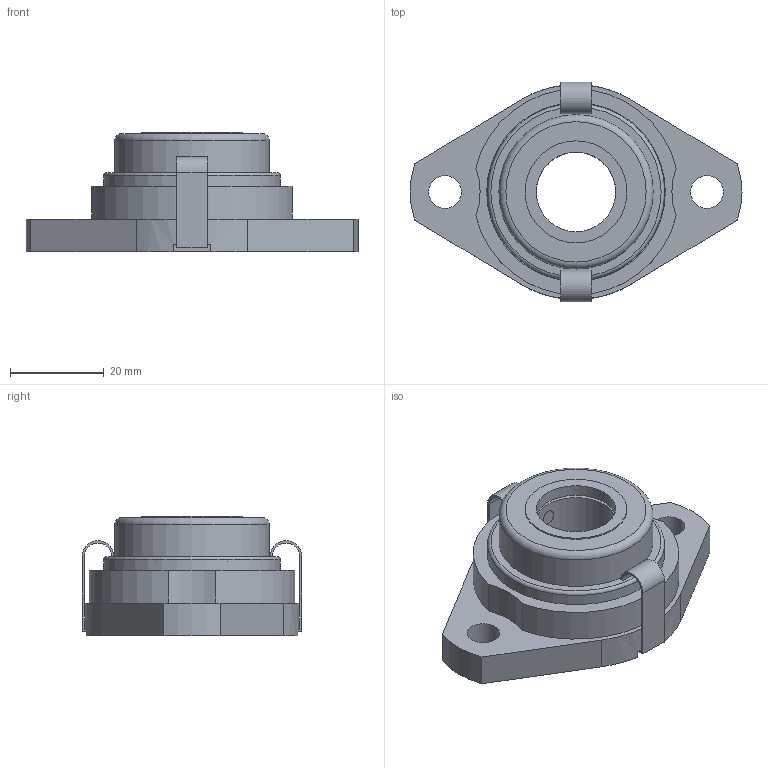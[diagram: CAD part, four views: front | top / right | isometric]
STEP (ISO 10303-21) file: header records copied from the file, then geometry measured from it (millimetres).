
FILE_DESCRIPTION((''),'2;1');
FILE_NAME('\\Ts-tgl068\j-cad-d-base\00.3DCADデータ作成フォルダ\11.エコシリーズ\MUSFL000\MUSFL003C.stp','2014-11-12T09:42:51',('btec_1106_2'),(''),'Autodesk Inventor 2012','Autodesk Inventor 2012','');
FILE_SCHEMA(('AUTOMOTIVE_DESIGN { 1 0 10303 214 1 1 1 1 }'));
Length unit declared in the file: millimetre
Products named in the file (5): MUSFL000C(E); SFL003; U003; 003CP17; 2-3CLL
Assembly tree (5 placements, depth 2):
  MUSFL000C(E)
    SFL003
    U003
    003CP17
    2-3CLL  x2
Bounding box: 71 x 47 x 25.6 mm (x, y, z)
Volume: 21982.6 mm3; surface area: 16680.1 mm2
Topology: 5 solids, 5 shells, 112 faces, 268 edges, 176 vertices
Faces by surface type: plane 62, cylinder 41, torus 4, cone 3, sphere 2
Full cylindrical faces by diameter (mm): 3.242 x1, 3.5 x1, 7 x2, 17 x2, 21.8 x2, 23.1 x1, 25 x1, 32.4 x1, 33 x1, 37.2 x1, 37.8 x1, 38.2 x1
Entity records: 3058 total; most frequent: CARTESIAN_POINT 606, DIRECTION 516, ORIENTED_EDGE 418, EDGE_CURVE 209, AXIS2_PLACEMENT_3D 201, VERTEX_POINT 151, EDGE_LOOP 150, VECTOR 114
